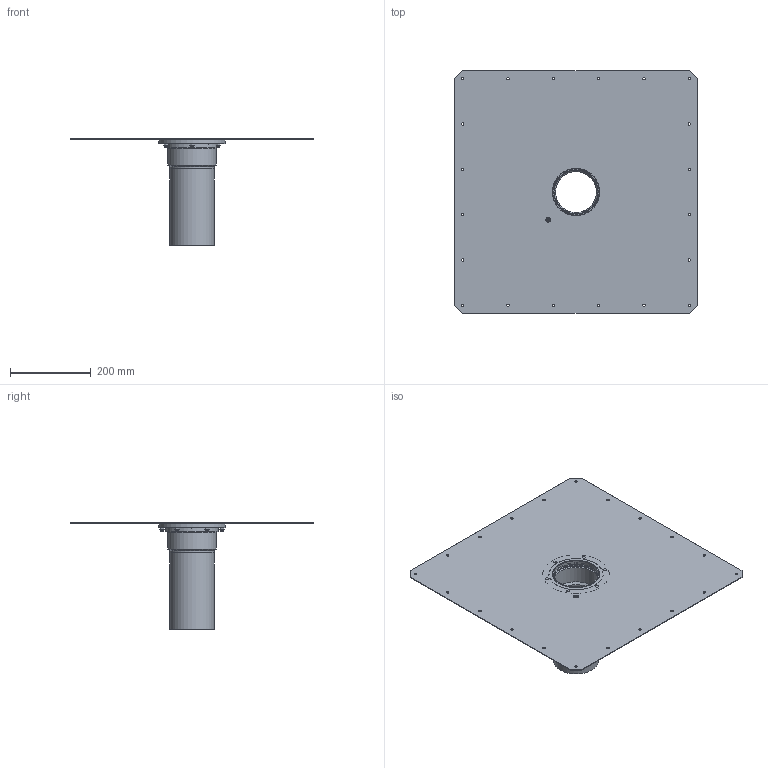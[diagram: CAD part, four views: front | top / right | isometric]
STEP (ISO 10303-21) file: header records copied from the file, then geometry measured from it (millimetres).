
FILE_DESCRIPTION(/* description */ (''),/* implementation_level */ '2;1');
FILE_NAME(/* name */ 'H:\Geberit-Teile\Export\359.147.00.1\stp\359147.stp',/* time_stamp */ '2018-07-06T10:29:19+02:00',/* author */ ('seihe2'),/* organization */ (''),/* preprocessor_version */ 'ST-DEVELOPER v15.2',/* originating_system */ 'Autodesk Inventor 2014',/* authorisation */ '');
FILE_SCHEMA (('AUTOMOTIVE_DESIGN { 1 0 10303 214 3 1 1 }'));
Length unit declared in the file: millimetre
Products named in the file (1): 359147
Bounding box: 600 x 600 x 264 mm (x, y, z)
Volume: 1015851.8 mm3; surface area: 963287.2 mm2
Topology: 17 solids, 17 shells, 281 faces, 739 edges, 521 vertices
Faces by surface type: plane 101, cylinder 90, cone 46, torus 26, bspline 17, sphere 1
Full cylindrical faces by diameter (mm): 4.917 x6, 5 x6, 6 x26, 7 x18, 7.5 x6, 8 x6, 101.343 x1, 101.4 x1, 110 x1, 110.4 x1, 111.5 x1, 111.6 x1, 116 x1, 116.5 x2, 118.39 x1, 118.65 x1, 121.5 x1, 122.5 x3, 128.85 x1, 131.39 x1, 132 x1, 134 x1, 134.5 x1, 165 x2
Entity records: 8342 total; most frequent: CARTESIAN_POINT 2102, DIRECTION 1188, ORIENTED_EDGE 974, EDGE_LOOP 584, AXIS2_PLACEMENT_3D 553, EDGE_CURVE 487, VERTEX_POINT 433, FACE_BOUND 303
